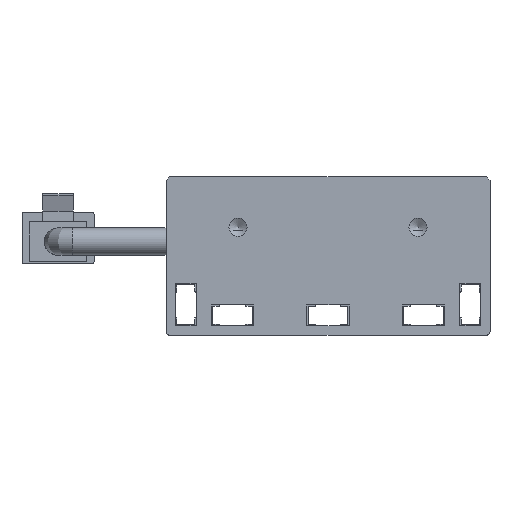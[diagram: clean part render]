
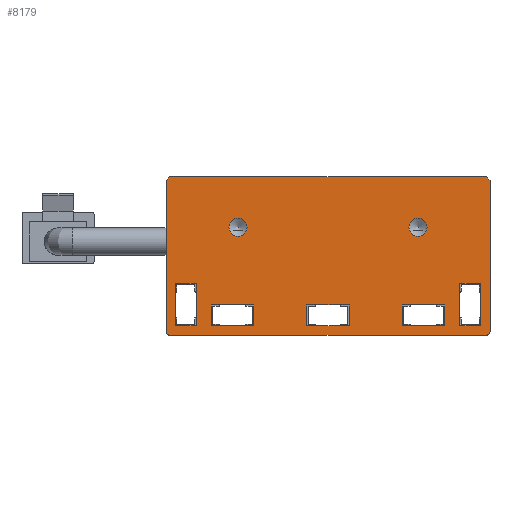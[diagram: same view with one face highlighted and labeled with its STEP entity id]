
A CAD part, front view. The second image highlights one B-rep face of the part: STEP entity #8179.
In plain terms, the highlighted planar face has unit normal (0, -1, 0).
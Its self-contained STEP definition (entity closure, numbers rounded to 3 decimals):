
#76=FACE_BOUND('',#1249,.T.);
#77=FACE_BOUND('',#1250,.T.);
#78=FACE_BOUND('',#1251,.T.);
#79=FACE_BOUND('',#1252,.T.);
#80=FACE_BOUND('',#1253,.T.);
#81=FACE_BOUND('',#1254,.T.);
#82=FACE_BOUND('',#1255,.T.);
#398=CIRCLE('',#8845,1.265);
#400=CIRCLE('',#8849,1.265);
#402=CIRCLE('',#8875,0.5);
#404=CIRCLE('',#8879,0.5);
#817=FACE_OUTER_BOUND('',#1248,.T.);
#1248=EDGE_LOOP('',(#7383,#7384,#7385,#7386,#7387,#7388,#7389,#7390));
#1249=EDGE_LOOP('',(#7391));
#1250=EDGE_LOOP('',(#7392));
#1251=EDGE_LOOP('',(#7393,#7394,#7395,#7396));
#1252=EDGE_LOOP('',(#7397,#7398,#7399,#7400));
#1253=EDGE_LOOP('',(#7401,#7402,#7403,#7404));
#1254=EDGE_LOOP('',(#7405,#7406,#7407,#7408));
#1255=EDGE_LOOP('',(#7409,#7410,#7411,#7412));
#2145=LINE('',#13345,#3093);
#2148=LINE('',#13351,#3096);
#2151=LINE('',#13357,#3099);
#2154=LINE('',#13361,#3102);
#2157=LINE('',#13369,#3105);
#2160=LINE('',#13375,#3108);
#2163=LINE('',#13381,#3111);
#2166=LINE('',#13385,#3114);
#2169=LINE('',#13393,#3117);
#2172=LINE('',#13399,#3120);
#2175=LINE('',#13405,#3123);
#2178=LINE('',#13409,#3126);
#2181=LINE('',#13417,#3129);
#2184=LINE('',#13423,#3132);
#2187=LINE('',#13429,#3135);
#2190=LINE('',#13433,#3138);
#2193=LINE('',#13441,#3141);
#2196=LINE('',#13447,#3144);
#2199=LINE('',#13453,#3147);
#2202=LINE('',#13457,#3150);
#2205=LINE('',#13465,#3153);
#2208=LINE('',#13471,#3156);
#2211=LINE('',#13477,#3159);
#2215=LINE('',#13489,#3163);
#2219=LINE('',#13501,#3167);
#2222=LINE('',#13505,#3170);
#3093=VECTOR('',#10975,10.);
#3096=VECTOR('',#10980,10.);
#3099=VECTOR('',#10985,10.);
#3102=VECTOR('',#10990,10.);
#3105=VECTOR('',#10995,10.);
#3108=VECTOR('',#11000,10.);
#3111=VECTOR('',#11005,10.);
#3114=VECTOR('',#11010,10.);
#3117=VECTOR('',#11015,10.);
#3120=VECTOR('',#11020,10.);
#3123=VECTOR('',#11025,10.);
#3126=VECTOR('',#11030,10.);
#3129=VECTOR('',#11035,10.);
#3132=VECTOR('',#11040,10.);
#3135=VECTOR('',#11045,10.);
#3138=VECTOR('',#11050,10.);
#3141=VECTOR('',#11055,10.);
#3144=VECTOR('',#11060,10.);
#3147=VECTOR('',#11065,10.);
#3150=VECTOR('',#11070,10.);
#3153=VECTOR('',#11075,10.);
#3156=VECTOR('',#11080,10.);
#3159=VECTOR('',#11085,10.);
#3163=VECTOR('',#11097,10.);
#3167=VECTOR('',#11109,10.);
#3170=VECTOR('',#11114,10.);
#3891=VERTEX_POINT('',#13326);
#3894=VERTEX_POINT('',#13335);
#3897=VERTEX_POINT('',#13342);
#3898=VERTEX_POINT('',#13344);
#3900=VERTEX_POINT('',#13350);
#3902=VERTEX_POINT('',#13356);
#3905=VERTEX_POINT('',#13366);
#3906=VERTEX_POINT('',#13368);
#3908=VERTEX_POINT('',#13374);
#3910=VERTEX_POINT('',#13380);
#3913=VERTEX_POINT('',#13390);
#3914=VERTEX_POINT('',#13392);
#3916=VERTEX_POINT('',#13398);
#3918=VERTEX_POINT('',#13404);
#3921=VERTEX_POINT('',#13414);
#3922=VERTEX_POINT('',#13416);
#3924=VERTEX_POINT('',#13422);
#3926=VERTEX_POINT('',#13428);
#3929=VERTEX_POINT('',#13438);
#3930=VERTEX_POINT('',#13440);
#3932=VERTEX_POINT('',#13446);
#3934=VERTEX_POINT('',#13452);
#3937=VERTEX_POINT('',#13462);
#3938=VERTEX_POINT('',#13464);
#3940=VERTEX_POINT('',#13470);
#3942=VERTEX_POINT('',#13476);
#3944=VERTEX_POINT('',#13482);
#3946=VERTEX_POINT('',#13488);
#3948=VERTEX_POINT('',#13494);
#3950=VERTEX_POINT('',#13500);
#5031=EDGE_CURVE('',#3891,#3891,#398,.T.);
#5035=EDGE_CURVE('',#3894,#3894,#400,.T.);
#5039=EDGE_CURVE('',#3898,#3897,#2145,.T.);
#5042=EDGE_CURVE('',#3900,#3898,#2148,.T.);
#5045=EDGE_CURVE('',#3902,#3900,#2151,.T.);
#5048=EDGE_CURVE('',#3897,#3902,#2154,.T.);
#5051=EDGE_CURVE('',#3906,#3905,#2157,.T.);
#5054=EDGE_CURVE('',#3908,#3906,#2160,.T.);
#5057=EDGE_CURVE('',#3910,#3908,#2163,.T.);
#5060=EDGE_CURVE('',#3905,#3910,#2166,.T.);
#5063=EDGE_CURVE('',#3914,#3913,#2169,.T.);
#5066=EDGE_CURVE('',#3916,#3914,#2172,.T.);
#5069=EDGE_CURVE('',#3918,#3916,#2175,.T.);
#5072=EDGE_CURVE('',#3913,#3918,#2178,.T.);
#5075=EDGE_CURVE('',#3922,#3921,#2181,.T.);
#5078=EDGE_CURVE('',#3924,#3922,#2184,.T.);
#5081=EDGE_CURVE('',#3926,#3924,#2187,.T.);
#5084=EDGE_CURVE('',#3921,#3926,#2190,.T.);
#5087=EDGE_CURVE('',#3930,#3929,#2193,.T.);
#5090=EDGE_CURVE('',#3932,#3930,#2196,.T.);
#5093=EDGE_CURVE('',#3934,#3932,#2199,.T.);
#5096=EDGE_CURVE('',#3929,#3934,#2202,.T.);
#5099=EDGE_CURVE('',#3938,#3937,#2205,.T.);
#5102=EDGE_CURVE('',#3940,#3938,#2208,.T.);
#5105=EDGE_CURVE('',#3942,#3940,#2211,.T.);
#5108=EDGE_CURVE('',#3944,#3942,#402,.T.);
#5111=EDGE_CURVE('',#3946,#3944,#2215,.T.);
#5114=EDGE_CURVE('',#3948,#3946,#404,.T.);
#5117=EDGE_CURVE('',#3950,#3948,#2219,.T.);
#5120=EDGE_CURVE('',#3937,#3950,#2222,.T.);
#7383=ORIENTED_EDGE('',*,*,#5120,.T.);
#7384=ORIENTED_EDGE('',*,*,#5117,.T.);
#7385=ORIENTED_EDGE('',*,*,#5114,.T.);
#7386=ORIENTED_EDGE('',*,*,#5111,.T.);
#7387=ORIENTED_EDGE('',*,*,#5108,.T.);
#7388=ORIENTED_EDGE('',*,*,#5105,.T.);
#7389=ORIENTED_EDGE('',*,*,#5102,.T.);
#7390=ORIENTED_EDGE('',*,*,#5099,.T.);
#7391=ORIENTED_EDGE('',*,*,#5031,.T.);
#7392=ORIENTED_EDGE('',*,*,#5035,.T.);
#7393=ORIENTED_EDGE('',*,*,#5096,.T.);
#7394=ORIENTED_EDGE('',*,*,#5093,.T.);
#7395=ORIENTED_EDGE('',*,*,#5090,.T.);
#7396=ORIENTED_EDGE('',*,*,#5087,.T.);
#7397=ORIENTED_EDGE('',*,*,#5084,.T.);
#7398=ORIENTED_EDGE('',*,*,#5081,.T.);
#7399=ORIENTED_EDGE('',*,*,#5078,.T.);
#7400=ORIENTED_EDGE('',*,*,#5075,.T.);
#7401=ORIENTED_EDGE('',*,*,#5072,.T.);
#7402=ORIENTED_EDGE('',*,*,#5069,.T.);
#7403=ORIENTED_EDGE('',*,*,#5066,.T.);
#7404=ORIENTED_EDGE('',*,*,#5063,.T.);
#7405=ORIENTED_EDGE('',*,*,#5060,.T.);
#7406=ORIENTED_EDGE('',*,*,#5057,.T.);
#7407=ORIENTED_EDGE('',*,*,#5054,.T.);
#7408=ORIENTED_EDGE('',*,*,#5051,.T.);
#7409=ORIENTED_EDGE('',*,*,#5048,.T.);
#7410=ORIENTED_EDGE('',*,*,#5045,.T.);
#7411=ORIENTED_EDGE('',*,*,#5042,.T.);
#7412=ORIENTED_EDGE('',*,*,#5039,.T.);
#7765=PLANE('',#8882);
#8179=ADVANCED_FACE('',(#817,#76,#77,#78,#79,#80,#81,#82),#7765,.T.);
#8845=AXIS2_PLACEMENT_3D('',#13327,#10958,#10959);
#8849=AXIS2_PLACEMENT_3D('',#13336,#10968,#10969);
#8875=AXIS2_PLACEMENT_3D('',#13483,#11091,#11092);
#8879=AXIS2_PLACEMENT_3D('',#13495,#11103,#11104);
#8882=AXIS2_PLACEMENT_3D('',#13506,#11115,#11116);
#10958=DIRECTION('center_axis',(0.,1.,0.));
#10959=DIRECTION('ref_axis',(0.,0.,-1.));
#10968=DIRECTION('center_axis',(0.,1.,0.));
#10969=DIRECTION('ref_axis',(0.,0.,-1.));
#10975=DIRECTION('',(0.,0.,-1.));
#10980=DIRECTION('',(1.,0.,0.));
#10985=DIRECTION('',(0.,0.,1.));
#10990=DIRECTION('',(-1.,0.,0.));
#10995=DIRECTION('',(0.,0.,-1.));
#11000=DIRECTION('',(1.,0.,0.));
#11005=DIRECTION('',(0.,0.,1.));
#11010=DIRECTION('',(-1.,0.,0.));
#11015=DIRECTION('',(0.,0.,-1.));
#11020=DIRECTION('',(1.,0.,0.));
#11025=DIRECTION('',(0.,0.,1.));
#11030=DIRECTION('',(-1.,0.,0.));
#11035=DIRECTION('',(0.,0.,-1.));
#11040=DIRECTION('',(1.,0.,0.));
#11045=DIRECTION('',(0.,0.,1.));
#11050=DIRECTION('',(-1.,0.,0.));
#11055=DIRECTION('',(0.,0.,-1.));
#11060=DIRECTION('',(1.,0.,0.));
#11065=DIRECTION('',(0.,0.,1.));
#11070=DIRECTION('',(-1.,0.,0.));
#11075=DIRECTION('',(-1.,0.,0.));
#11080=DIRECTION('',(-0.707,0.,0.707));
#11085=DIRECTION('',(0.,0.,1.));
#11091=DIRECTION('center_axis',(0.,-1.,0.));
#11092=DIRECTION('ref_axis',(0.,0.,-1.));
#11097=DIRECTION('',(1.,0.,0.));
#11103=DIRECTION('center_axis',(0.,-1.,0.));
#11104=DIRECTION('ref_axis',(-1.,0.,0.));
#11109=DIRECTION('',(0.,0.,-1.));
#11114=DIRECTION('',(-0.707,0.,-0.707));
#11115=DIRECTION('center_axis',(0.,-1.,0.));
#11116=DIRECTION('ref_axis',(1.,0.,0.));
#13326=CARTESIAN_POINT('',(-12.5,-75.,16.265));
#13327=CARTESIAN_POINT('Origin',(-12.5,-75.,15.));
#13335=CARTESIAN_POINT('',(12.5,-75.,16.265));
#13336=CARTESIAN_POINT('Origin',(12.5,-75.,15.));
#13342=CARTESIAN_POINT('',(21.2,-75.,1.3));
#13344=CARTESIAN_POINT('',(21.2,-75.,7.2));
#13345=CARTESIAN_POINT('',(21.2,-75.,7.2));
#13350=CARTESIAN_POINT('',(18.3,-75.,7.2));
#13351=CARTESIAN_POINT('',(18.3,-75.,7.2));
#13356=CARTESIAN_POINT('',(18.3,-75.,1.3));
#13357=CARTESIAN_POINT('',(18.3,-75.,1.3));
#13361=CARTESIAN_POINT('',(21.2,-75.,1.3));
#13366=CARTESIAN_POINT('',(-18.3,-75.,1.3));
#13368=CARTESIAN_POINT('',(-18.3,-75.,7.2));
#13369=CARTESIAN_POINT('',(-18.3,-75.,7.2));
#13374=CARTESIAN_POINT('',(-21.2,-75.,7.2));
#13375=CARTESIAN_POINT('',(-21.2,-75.,7.2));
#13380=CARTESIAN_POINT('',(-21.2,-75.,1.3));
#13381=CARTESIAN_POINT('',(-21.2,-75.,1.3));
#13385=CARTESIAN_POINT('',(-18.3,-75.,1.3));
#13390=CARTESIAN_POINT('',(-10.3,-75.,1.3));
#13392=CARTESIAN_POINT('',(-10.3,-75.,4.2));
#13393=CARTESIAN_POINT('',(-10.3,-75.,4.2));
#13398=CARTESIAN_POINT('',(-16.2,-75.,4.2));
#13399=CARTESIAN_POINT('',(-16.2,-75.,4.2));
#13404=CARTESIAN_POINT('',(-16.2,-75.,1.3));
#13405=CARTESIAN_POINT('',(-16.2,-75.,1.3));
#13409=CARTESIAN_POINT('',(-10.3,-75.,1.3));
#13414=CARTESIAN_POINT('',(2.95,-75.,1.3));
#13416=CARTESIAN_POINT('',(2.95,-75.,4.2));
#13417=CARTESIAN_POINT('',(2.95,-75.,4.2));
#13422=CARTESIAN_POINT('',(-2.95,-75.,4.2));
#13423=CARTESIAN_POINT('',(-2.95,-75.,4.2));
#13428=CARTESIAN_POINT('',(-2.95,-75.,1.3));
#13429=CARTESIAN_POINT('',(-2.95,-75.,1.3));
#13433=CARTESIAN_POINT('',(2.95,-75.,1.3));
#13438=CARTESIAN_POINT('',(16.2,-75.,1.3));
#13440=CARTESIAN_POINT('',(16.2,-75.,4.2));
#13441=CARTESIAN_POINT('',(16.2,-75.,4.2));
#13446=CARTESIAN_POINT('',(10.3,-75.,4.2));
#13447=CARTESIAN_POINT('',(10.3,-75.,4.2));
#13452=CARTESIAN_POINT('',(10.3,-75.,1.3));
#13453=CARTESIAN_POINT('',(10.3,-75.,1.3));
#13457=CARTESIAN_POINT('',(16.2,-75.,1.3));
#13462=CARTESIAN_POINT('',(-22.,-75.,22.));
#13464=CARTESIAN_POINT('',(22.,-75.,22.));
#13465=CARTESIAN_POINT('',(22.,-75.,22.));
#13470=CARTESIAN_POINT('',(22.5,-75.,21.5));
#13471=CARTESIAN_POINT('',(22.5,-75.,21.5));
#13476=CARTESIAN_POINT('',(22.5,-75.,0.5));
#13477=CARTESIAN_POINT('',(22.5,-75.,21.5));
#13482=CARTESIAN_POINT('',(22.,-75.,0.));
#13483=CARTESIAN_POINT('Origin',(22.,-75.,0.5));
#13488=CARTESIAN_POINT('',(-22.,-75.,0.));
#13489=CARTESIAN_POINT('',(22.,-75.,0.));
#13494=CARTESIAN_POINT('',(-22.5,-75.,0.5));
#13495=CARTESIAN_POINT('Origin',(-22.,-75.,0.5));
#13500=CARTESIAN_POINT('',(-22.5,-75.,21.5));
#13501=CARTESIAN_POINT('',(-22.5,-75.,21.5));
#13505=CARTESIAN_POINT('',(-22.,-75.,22.));
#13506=CARTESIAN_POINT('Origin',(0.,-75.,11.));
